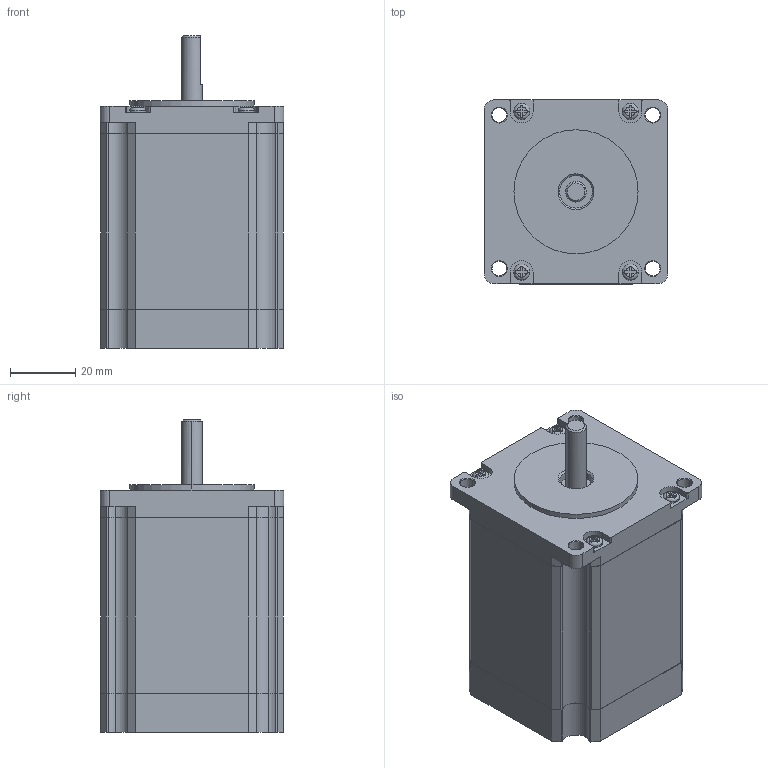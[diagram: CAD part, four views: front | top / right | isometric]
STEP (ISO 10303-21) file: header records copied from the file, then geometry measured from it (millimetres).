
FILE_DESCRIPTION (( 'STEP AP214' ), '1' );
FILE_NAME ('TS3653N3.STEP', '2011-09-15T08:52:15', ( '' ), ( '' ), 'SwSTEP 2.0', 'SolidWorks 2010', '' );
FILE_SCHEMA (( 'AUTOMOTIVE_DESIGN' ));
Length unit declared in the file: millimetre
Products named in the file (1): TS3653N3
Bounding box: 56.4 x 56.4 x 96 mm (x, y, z)
Volume: 215780.1 mm3; surface area: 23516.2 mm2
Topology: 1 solids, 1 shells, 246 faces, 669 edges, 435 vertices
Faces by surface type: plane 138, cylinder 78, cone 22, torus 8
Entity records: 8191 total; most frequent: CARTESIAN_POINT 1517, ORIENTED_EDGE 1338, DIRECTION 1337, EDGE_CURVE 669, AXIS2_PLACEMENT_3D 455, VERTEX_POINT 435, LINE 427, VECTOR 427
